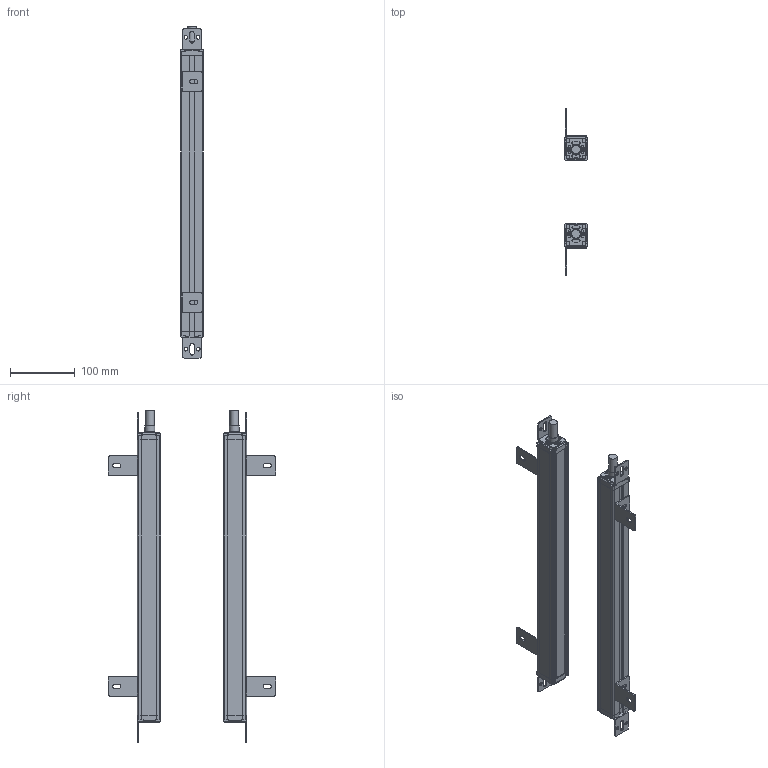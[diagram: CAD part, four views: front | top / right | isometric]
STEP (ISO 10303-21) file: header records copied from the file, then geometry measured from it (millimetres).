
FILE_DESCRIPTION(/* description */ (''),/* implementation_level */ '2;1');
FILE_NAME(/* name */ '2020_35X35_stp.stp',/* time_stamp */ '2023-09-18T16:16:51+08:00',/* author */ (''),/* organization */ (''),/* preprocessor_version */ 'ST-DEVELOPER v16.7',/* originating_system */ 'SIEMENS PLM Software NX 12.0',/* authorisation */ '');
FILE_SCHEMA (('AP203_CONFIGURATION_CONTROLLED_3D_DESIGN_OF_MECHANICAL_PARTS_AND_ASSEMBLIES_MIM_LF { 1 0 10303 403 2 1 2}'));
Length unit declared in the file: millimetre
Products named in the file (1): 2020_35X35_stp_stp
Bounding box: 35.41 x 258.01 x 511.6 mm (x, y, z)
Volume: 462321.7 mm3; surface area: 355245.7 mm2
Topology: 28 solids, 28 shells, 1182 faces, 3360 edges, 2260 vertices
Faces by surface type: plane 658, cylinder 464, cone 60
Full cylindrical faces by diameter (mm): 3.2 x8, 6 x24, 13 x2, 14.4 x2, 15 x2
Entity records: 39055 total; most frequent: DIRECTION 6832, CARTESIAN_POINT 6745, ORIENTED_EDGE 6612, EDGE_CURVE 3306, AXIS2_PLACEMENT_3D 2347, VERTEX_POINT 2244, LINE 2138, VECTOR 2138
